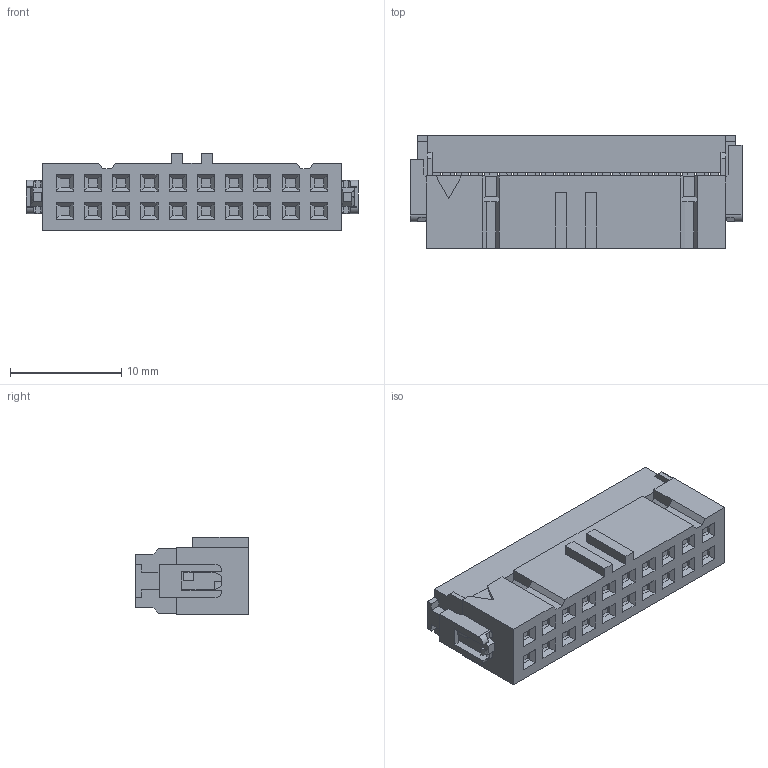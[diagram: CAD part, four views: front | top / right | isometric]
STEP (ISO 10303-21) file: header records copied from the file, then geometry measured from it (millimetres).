
FILE_DESCRIPTION((''),'2;1');
FILE_NAME('71600-120_SW0001','2009-10-26T',('sspandia'),('FCI - ELX Division'),'PRO/ENGINEER BY PARAMETRIC TECHNOLOGY CORPORATION, 2008010','PRO/ENGINEER BY PARAMETRIC TECHNOLOGY CORPORATION, 2008010','');
FILE_SCHEMA(('CONFIG_CONTROL_DESIGN'));
Length unit declared in the file: millimetre
Products named in the file (1): 71600-120_SW0001
Bounding box: 29.86 x 10.13 x 7 mm (x, y, z)
Volume: 1528.5 mm3; surface area: 1452.7 mm2
Topology: 1 solids, 1 shells, 516 faces, 1478 edges, 954 vertices
Faces by surface type: plane 482, cylinder 32, extrusion 2
Entity records: 16735 total; most frequent: CARTESIAN_POINT 3059, ORIENTED_EDGE 2956, DIRECTION 2556, EDGE_CURVE 1478, VECTOR 1408, LINE 1406, VERTEX_POINT 954, EDGE_LOOP 596
